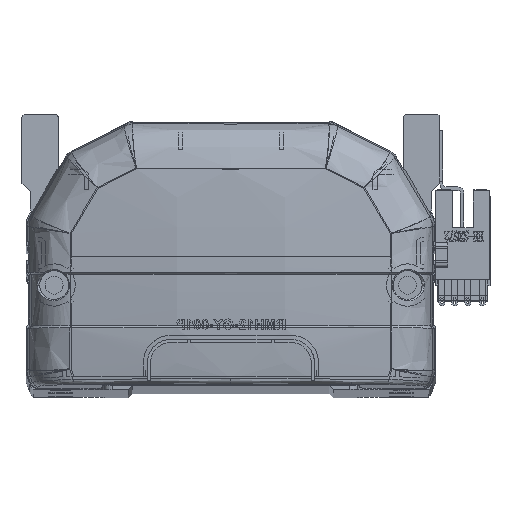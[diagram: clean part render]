
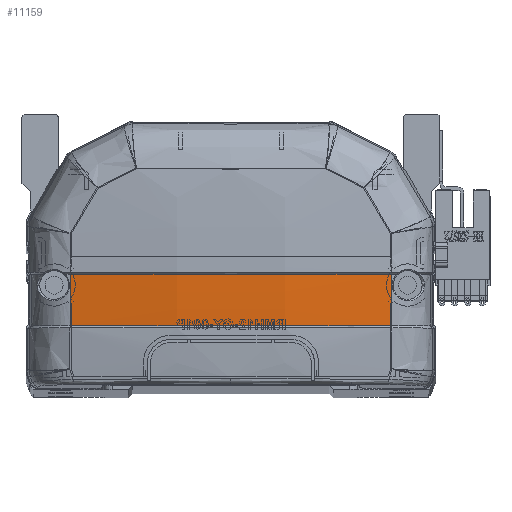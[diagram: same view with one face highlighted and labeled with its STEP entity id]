
A CAD part, top view. The second image highlights one B-rep face of the part: STEP entity #11159.
In plain terms, the highlighted free-form (B-spline) face has degree [3, 3] with [4, 4] control points.
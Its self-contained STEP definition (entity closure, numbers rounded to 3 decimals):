
#159 = CARTESIAN_POINT ( 'NONE',  ( 39.963, 28.706, -6.372 ) ) ;
#857 = ORIENTED_EDGE ( 'NONE', *, *, #11554, .T. ) ;
#1094 = CARTESIAN_POINT ( 'NONE',  ( 26.761, 15.83, -7.945 ) ) ;
#1304 = CARTESIAN_POINT ( 'NONE',  ( 39.966, 24.413, -6.306 ) ) ;
#2441 = CARTESIAN_POINT ( 'NONE',  ( -13.598, 24.342, -10.47 ) ) ;
#3950 = CARTESIAN_POINT ( 'NONE',  ( -39.985, 15.83, -5.879 ) ) ;
#4233 = CARTESIAN_POINT ( 'NONE',  ( -39.963, 28.706, -6.372 ) ) ;
#4841 = CARTESIAN_POINT ( 'NONE',  ( -23.389, 15.83, -7.947 ) ) ;
#4989 = CARTESIAN_POINT ( 'NONE',  ( 13.38, 15.83, -8.984 ) ) ;
#7173 = VERTEX_POINT ( 'NONE', #27585 ) ;
#10075 = CARTESIAN_POINT ( 'NONE',  ( 40.461, 28.832, -6.296 ) ) ;
#10136 = VERTEX_POINT ( 'NONE', #16690 ) ;
#11159 = ADVANCED_FACE ( 'NONE', ( #30713 ), #46992, .F. ) ;
#11554 = EDGE_CURVE ( 'NONE', #46958, #10136, #39647, .T. ) ;
#11751 = CARTESIAN_POINT ( 'NONE',  ( -39.963, 28.706, -6.372 ) ) ;
#12877 = CARTESIAN_POINT ( 'NONE',  ( -36.679, 15.83, -6.395 ) ) ;
#13250 = CARTESIAN_POINT ( 'NONE',  ( 39.963, 28.706, -6.372 ) ) ;
#13547 = CARTESIAN_POINT ( 'NONE',  ( 13.598, 24.342, -10.47 ) ) ;
#13761 = EDGE_CURVE ( 'NONE', #46958, #21381, #25882, .T. ) ;
#14067 = CARTESIAN_POINT ( 'NONE',  ( 13.598, 19.918, -10.302 ) ) ;
#15055 = ORIENTED_EDGE ( 'NONE', *, *, #13761, .F. ) ;
#15761 = CARTESIAN_POINT ( 'NONE',  ( -39.973, 20.118, -6.142 ) ) ;
#16670 = CARTESIAN_POINT ( 'NONE',  ( -26.721, 15.83, -7.624 ) ) ;
#16690 = CARTESIAN_POINT ( 'NONE',  ( -39.985, 15.83, -5.879 ) ) ;
#19388 = B_SPLINE_CURVE_WITH_KNOTS ( 'NONE', 3,
 ( #24739, #44462, #1304, #13250 ),
 .UNSPECIFIED., .F., .F.,
 ( 4, 4 ),
 ( 0., 1. ),
 .UNSPECIFIED. ) ;
#20038 = EDGE_LOOP ( 'NONE', ( #32091, #15055, #857, #32959 ) ) ;
#20258 = CARTESIAN_POINT ( 'NONE',  ( -6.692, 15.83, -8.984 ) ) ;
#21090 = CARTESIAN_POINT ( 'NONE',  ( -39.985, 15.83, -5.879 ) ) ;
#21264 = CARTESIAN_POINT ( 'NONE',  ( -40.461, 15.757, -5.8 ) ) ;
#21381 = VERTEX_POINT ( 'NONE', #159 ) ;
#21426 = CARTESIAN_POINT ( 'NONE',  ( -40.461, 24.47, -6.231 ) ) ;
#21763 = CARTESIAN_POINT ( 'NONE',  ( 13.598, 28.769, -10.535 ) ) ;
#24204 = CARTESIAN_POINT ( 'NONE',  ( -13.384, 15.83, -8.724 ) ) ;
#24369 = CARTESIAN_POINT ( 'NONE',  ( 39.985, 15.83, -5.879 ) ) ;
#24739 = CARTESIAN_POINT ( 'NONE',  ( 39.985, 15.83, -5.879 ) ) ;
#25189 = CARTESIAN_POINT ( 'NONE',  ( -13.598, 15.499, -10.032 ) ) ;
#25366 = CARTESIAN_POINT ( 'NONE',  ( -40.461, 20.111, -6.066 ) ) ;
#25882 = B_SPLINE_CURVE_WITH_KNOTS ( 'NONE', 3,
 ( #42947, #47053, #27819, #43302, #43484, #39017 ),
 .UNSPECIFIED., .F., .F.,
 ( 4, 2, 4 ),
 ( 0., 0.5, 1. ),
 .UNSPECIFIED. ) ;
#27585 = CARTESIAN_POINT ( 'NONE',  ( 39.985, 15.83, -5.879 ) ) ;
#27819 = CARTESIAN_POINT ( 'NONE',  ( -13.373, 28.707, -9.468 ) ) ;
#29842 = EDGE_CURVE ( 'NONE', #7173, #21381, #19388, .T. ) ;
#30713 = FACE_OUTER_BOUND ( 'NONE', #20038, .T. ) ;
#32091 = ORIENTED_EDGE ( 'NONE', *, *, #29842, .T. ) ;
#32959 = ORIENTED_EDGE ( 'NONE', *, *, #36858, .F. ) ;
#33877 = B_SPLINE_CURVE_WITH_KNOTS ( 'NONE', 3,
 ( #24369, #1094, #4989, #20258, #24204, #4841, #16670, #36361, #12877, #21090 ),
 .UNSPECIFIED., .F., .F.,
 ( 4, 2, 2, 2, 4 ),
 ( 0., 0.04, 0.06, 0.07, 0.08 ),
 .UNSPECIFIED. ) ;
#35252 = CARTESIAN_POINT ( 'NONE',  ( -39.966, 24.412, -6.306 ) ) ;
#36361 = CARTESIAN_POINT ( 'NONE',  ( -33.365, 15.83, -6.848 ) ) ;
#36858 = EDGE_CURVE ( 'NONE', #7173, #10136, #33877, .T. ) ;
#36861 = CARTESIAN_POINT ( 'NONE',  ( 40.461, 24.47, -6.231 ) ) ;
#37549 = CARTESIAN_POINT ( 'NONE',  ( 13.598, 15.499, -10.032 ) ) ;
#39017 = CARTESIAN_POINT ( 'NONE',  ( 39.963, 28.706, -6.372 ) ) ;
#39647 = B_SPLINE_CURVE_WITH_KNOTS ( 'NONE', 3,
 ( #11751, #35252, #15761, #3950 ),
 .UNSPECIFIED., .F., .F.,
 ( 4, 4 ),
 ( 0., 1. ),
 .UNSPECIFIED. ) ;
#40792 = CARTESIAN_POINT ( 'NONE',  ( -13.598, 28.769, -10.535 ) ) ;
#41283 = CARTESIAN_POINT ( 'NONE',  ( -13.598, 19.918, -10.302 ) ) ;
#42947 = CARTESIAN_POINT ( 'NONE',  ( -39.963, 28.706, -6.372 ) ) ;
#43302 = CARTESIAN_POINT ( 'NONE',  ( 13.375, 28.707, -9.468 ) ) ;
#43484 = CARTESIAN_POINT ( 'NONE',  ( 26.749, 28.706, -8.432 ) ) ;
#44462 = CARTESIAN_POINT ( 'NONE',  ( 39.973, 20.12, -6.142 ) ) ;
#45082 = CARTESIAN_POINT ( 'NONE',  ( 40.461, 20.111, -6.066 ) ) ;
#46958 = VERTEX_POINT ( 'NONE', #4233 ) ;
#46992 =( BOUNDED_SURFACE ( )  B_SPLINE_SURFACE ( 3, 3, ( 
 ( #49160, #45082, #36861, #10075 ),
 ( #37549, #14067, #13547, #21763 ),
 ( #25189, #41283, #2441, #40792 ),
 ( #21264, #25366, #21426, #49336 ) ),
 .UNSPECIFIED., .F., .F., .T. ) 
 B_SPLINE_SURFACE_WITH_KNOTS ( ( 4, 4 ),
 ( 4, 4 ),
 ( 0., 1. ),
 ( 0., 1. ),
 .UNSPECIFIED. ) 
 GEOMETRIC_REPRESENTATION_ITEM ( )  RATIONAL_B_SPLINE_SURFACE ( (
 ( 1., 1., 1., 1.),
 ( 0.992, 0.992, 0.992, 0.992),
 ( 0.992, 0.992, 0.992, 0.992),
 ( 1., 1., 1., 1.) ) ) 
 REPRESENTATION_ITEM ( '' )  SURFACE ( )  );
#47053 = CARTESIAN_POINT ( 'NONE',  ( -26.748, 28.706, -8.432 ) ) ;
#49160 = CARTESIAN_POINT ( 'NONE',  ( 40.461, 15.757, -5.8 ) ) ;
#49336 = CARTESIAN_POINT ( 'NONE',  ( -40.461, 28.832, -6.296 ) ) ;
